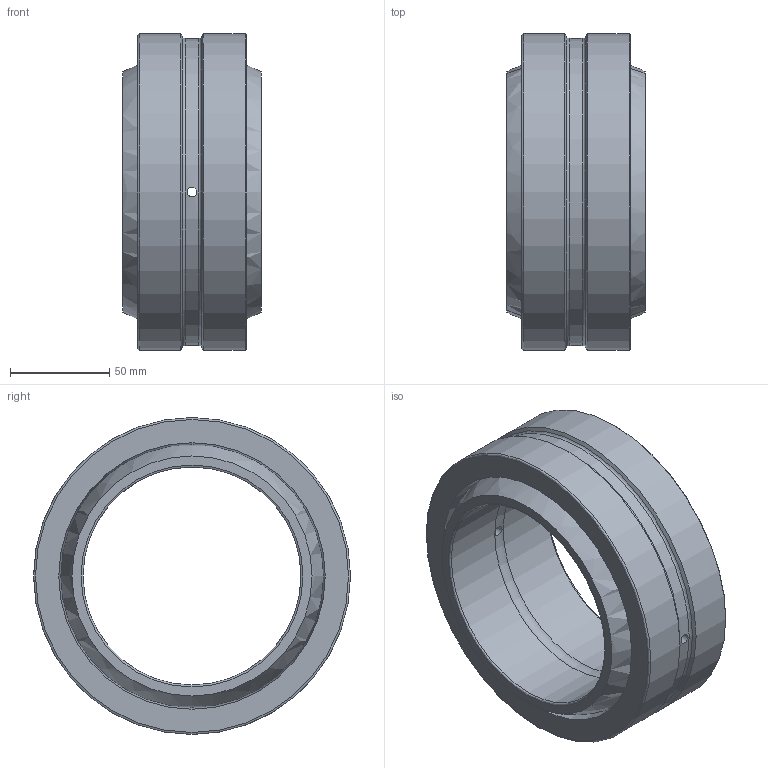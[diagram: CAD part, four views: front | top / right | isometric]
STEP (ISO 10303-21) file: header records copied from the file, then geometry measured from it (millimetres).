
FILE_DESCRIPTION(/* description */ (''),/* implementation_level */ '2;1');
FILE_NAME(/* name */ 'D:\moje\parametrické\GE--\GE--_\GE110E.stp',/* time_stamp */ '2016-08-17T14:01:48+02:00',/* author */ ('OUBALASKO'),/* organization */ (''),/* preprocessor_version */ 'ST-DEVELOPER v15.6',/* originating_system */ 'Autodesk Inventor 2015',/* authorisation */ '');
FILE_SCHEMA (('AUTOMOTIVE_DESIGN { 1 0 10303 214 3 1 1 }'));
Length unit declared in the file: millimetre
Products named in the file (3): GE110E-02; GE110E-01; GE110E
Assembly tree (2 placements, depth 2):
  GE110E
    GE110E-02
    GE110E-01
Bounding box: 70 x 160 x 160 mm (x, y, z)
Volume: 604188.5 mm3; surface area: 123628.1 mm2
Topology: 2 solids, 2 shells, 28 faces, 66 edges, 41 vertices
Faces by surface type: torus 10, cylinder 9, plane 4, sphere 3, cone 2
Full cylindrical faces by diameter (mm): 5 x4, 110 x2, 155 x1, 160 x2
Entity records: 885 total; most frequent: CARTESIAN_POINT 307, DIRECTION 118, EDGE_LOOP 64, ORIENTED_EDGE 64, AXIS2_PLACEMENT_3D 59, FACE_BOUND 37, VERTEX_POINT 32, EDGE_CURVE 32
